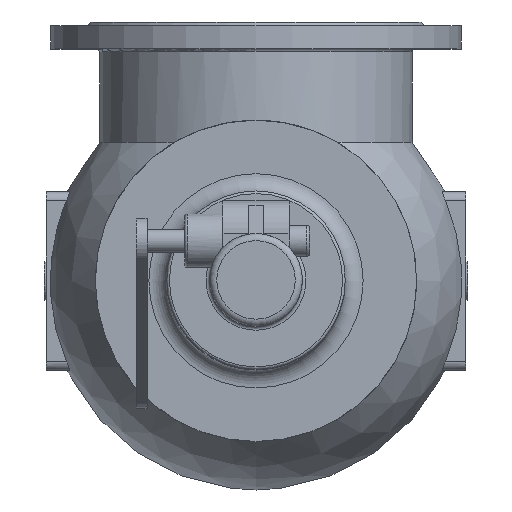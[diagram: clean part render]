
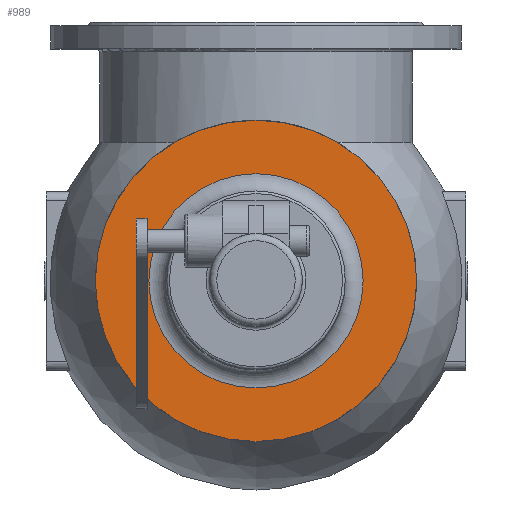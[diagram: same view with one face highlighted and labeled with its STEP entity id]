
A CAD part, top view. The second image highlights one B-rep face of the part: STEP entity #989.
In plain terms, the highlighted planar face has unit normal (0, 0, 1).
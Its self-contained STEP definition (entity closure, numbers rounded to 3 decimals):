
#989=ADVANCED_FACE('',(#2379,#2381),#2383,.T.);
#2379=FACE_BOUND('',#2380,.T.);
#2380=EDGE_LOOP('',(#3368));
#2381=FACE_BOUND('',#2382,.T.);
#2382=EDGE_LOOP('',(#3369,#3370));
#2383=PLANE('',#2384);
#2384=AXIS2_PLACEMENT_3D('',#2385,#2386,#2387);
#2385=CARTESIAN_POINT('',(0.,0.,515.));
#2386=DIRECTION('',(0.,0.,1.));
#2387=DIRECTION('',(0.,-1.,0.));
#3368=ORIENTED_EDGE('',*,*,#3881,.T.);
#3369=ORIENTED_EDGE('',*,*,#3884,.F.);
#3370=ORIENTED_EDGE('',*,*,#3885,.F.);
#3881=EDGE_CURVE('',#4488,#4488,#4489,.T.);
#3884=EDGE_CURVE('',#4494,#4495,#4496,.T.);
#3885=EDGE_CURVE('',#4495,#4494,#4497,.T.);
#4488=VERTEX_POINT('',#7036);
#4489=CIRCLE('',#7037,180.);
#4494=VERTEX_POINT('',#7051);
#4495=VERTEX_POINT('',#7052);
#4496=CIRCLE('',#7053,120.);
#4497=CIRCLE('',#7057,120.);
#7036=CARTESIAN_POINT('',(0.,-180.,515.));
#7037=AXIS2_PLACEMENT_3D('',#7038,#7039,#7040);
#7038=CARTESIAN_POINT('',(0.,0.,515.));
#7039=DIRECTION('',(0.,0.,1.));
#7040=DIRECTION('',(0.,-1.,0.));
#7051=CARTESIAN_POINT('',(0.,120.,515.));
#7052=CARTESIAN_POINT('',(0.,-120.,515.));
#7053=AXIS2_PLACEMENT_3D('',#7054,#7055,#7056);
#7054=CARTESIAN_POINT('',(0.,0.,515.));
#7055=DIRECTION('',(0.,0.,1.));
#7056=DIRECTION('',(0.,1.,0.));
#7057=AXIS2_PLACEMENT_3D('',#7058,#7059,#7060);
#7058=CARTESIAN_POINT('',(0.,0.,515.));
#7059=DIRECTION('',(0.,0.,1.));
#7060=DIRECTION('',(0.,-1.,0.));
